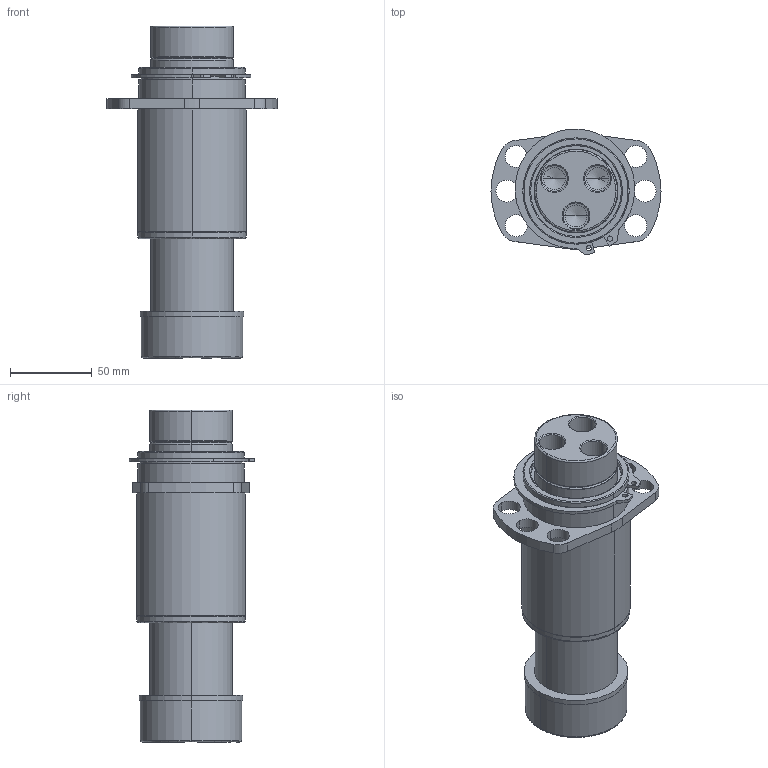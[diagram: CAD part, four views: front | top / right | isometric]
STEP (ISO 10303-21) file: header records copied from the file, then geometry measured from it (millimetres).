
FILE_DESCRIPTION (( 'STEP AP214' ), '1' );
FILE_NAME ('GK205-L4-E-XXX.STEP', '2020-09-22T13:18:35', ( '' ), ( '' ), 'SwSTEP 2.0', 'SolidWorks 2017', '' );
FILE_SCHEMA (( 'AUTOMOTIVE_DESIGN' ));
Length unit declared in the file: inch
Products named in the file (7): GK2.00-L4-E-Base; GK205-E-XXX-GuidePin; GK205-L4-E-XXX; RetainingRing-GK2.00-L-E; GK205-DampeningWasher
Assembly tree (6 placements, depth 3):
  GK205-L4-E-XXX
    GK2.00-L4-E-Base
      GK2.00-L4-E-Base
      RetainingRing-GK2.00-L-E
    GK205-E-XXX-GuidePin
      GK205-E-XXX-GuidePin
      GK205-DampeningWasher
Bounding box: 104.14 x 76.99 x 203.2 mm (x, y, z)
Volume: 578473 mm3; surface area: 99718.4 mm2
Topology: 4 solids, 4 shells, 141 faces, 337 edges, 207 vertices
Faces by surface type: cylinder 71, cone 26, plane 24, bspline 20
Entity records: 5007 total; most frequent: CARTESIAN_POINT 1246, DIRECTION 775, ORIENTED_EDGE 662, EDGE_CURVE 331, AXIS2_PLACEMENT_3D 324, VERTEX_POINT 207, CIRCLE 192, EDGE_LOOP 170
